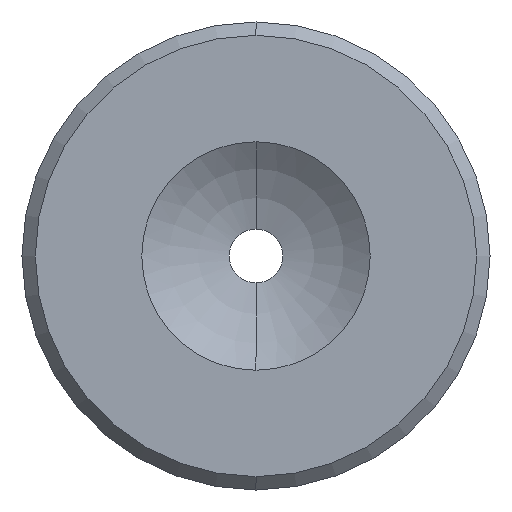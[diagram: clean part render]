
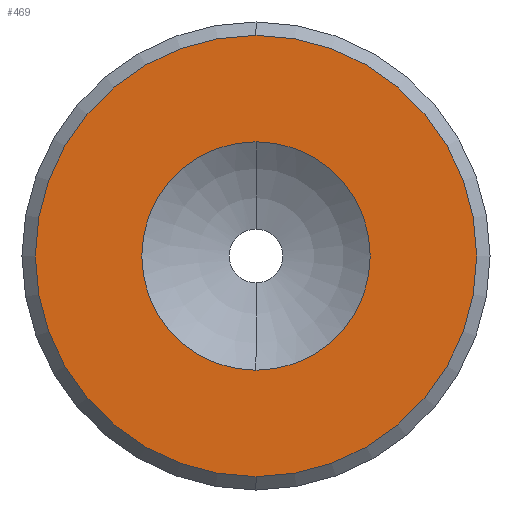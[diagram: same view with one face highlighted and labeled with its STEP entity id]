
A CAD part, left-side view. The second image highlights one B-rep face of the part: STEP entity #469.
In plain terms, the highlighted planar face has unit normal (-1, 0, 0).
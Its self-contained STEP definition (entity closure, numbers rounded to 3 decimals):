
#13 = EDGE_CURVE ( 'NONE', #391, #437, #169, .T. ) ;
#28 = ORIENTED_EDGE ( 'NONE', *, *, #13, .T. ) ;
#33 = DIRECTION ( 'NONE',  ( -1., 0., 0. ) ) ;
#43 = DIRECTION ( 'NONE',  ( 0., 0., -1. ) ) ;
#45 = DIRECTION ( 'NONE',  ( -1., 0., 0. ) ) ;
#64 = EDGE_LOOP ( 'NONE', ( #182, #325 ) ) ;
#67 = EDGE_CURVE ( 'NONE', #437, #391, #304, .T. ) ;
#68 = AXIS2_PLACEMENT_3D ( 'NONE', #350, #131, #385 ) ;
#75 = CARTESIAN_POINT ( 'NONE',  ( 0., 0., 0. ) ) ;
#82 = EDGE_CURVE ( 'NONE', #439, #117, #93, .T. ) ;
#93 = CIRCLE ( 'NONE', #422, 8.545 ) ;
#109 = DIRECTION ( 'NONE',  ( 0., 0., -1. ) ) ;
#117 = VERTEX_POINT ( 'NONE', #397 ) ;
#121 = CARTESIAN_POINT ( 'NONE',  ( 0., 0., 0. ) ) ;
#131 = DIRECTION ( 'NONE',  ( -1., 0., 0. ) ) ;
#156 = DIRECTION ( 'NONE',  ( 0., 0., 1. ) ) ;
#169 = CIRCLE ( 'NONE', #298, 16.5 ) ;
#182 = ORIENTED_EDGE ( 'NONE', *, *, #82, .F. ) ;
#209 = AXIS2_PLACEMENT_3D ( 'NONE', #302, #45, #43 ) ;
#210 = DIRECTION ( 'NONE',  ( 1., 0., 0. ) ) ;
#241 = PLANE ( 'NONE',  #342 ) ;
#242 = ORIENTED_EDGE ( 'NONE', *, *, #67, .T. ) ;
#255 = FACE_BOUND ( 'NONE', #64, .T. ) ;
#260 = FACE_OUTER_BOUND ( 'NONE', #438, .T. ) ;
#298 = AXIS2_PLACEMENT_3D ( 'NONE', #75, #33, #109 ) ;
#302 = CARTESIAN_POINT ( 'NONE',  ( 0., 0., 0. ) ) ;
#304 = CIRCLE ( 'NONE', #209, 16.5 ) ;
#325 = ORIENTED_EDGE ( 'NONE', *, *, #409, .F. ) ;
#342 = AXIS2_PLACEMENT_3D ( 'NONE', #352, #210, #486 ) ;
#350 = CARTESIAN_POINT ( 'NONE',  ( 0., 0., 0. ) ) ;
#352 = CARTESIAN_POINT ( 'NONE',  ( 0., 8.545, 0. ) ) ;
#368 = DIRECTION ( 'NONE',  ( -1., 0., 0. ) ) ;
#381 = CARTESIAN_POINT ( 'NONE',  ( 0., 0., 16.5 ) ) ;
#382 = CARTESIAN_POINT ( 'NONE',  ( 0., 0., -16.5 ) ) ;
#385 = DIRECTION ( 'NONE',  ( 0., 0., 1. ) ) ;
#387 = CARTESIAN_POINT ( 'NONE',  ( 0., 0., 8.545 ) ) ;
#391 = VERTEX_POINT ( 'NONE', #381 ) ;
#394 = CIRCLE ( 'NONE', #68, 8.545 ) ;
#397 = CARTESIAN_POINT ( 'NONE',  ( 0., 0., -8.545 ) ) ;
#409 = EDGE_CURVE ( 'NONE', #117, #439, #394, .T. ) ;
#422 = AXIS2_PLACEMENT_3D ( 'NONE', #121, #368, #156 ) ;
#437 = VERTEX_POINT ( 'NONE', #382 ) ;
#438 = EDGE_LOOP ( 'NONE', ( #242, #28 ) ) ;
#439 = VERTEX_POINT ( 'NONE', #387 ) ;
#469 = ADVANCED_FACE ( 'NONE', ( #260, #255 ), #241, .F. ) ;
#486 = DIRECTION ( 'NONE',  ( 0., 0., -1. ) ) ;
